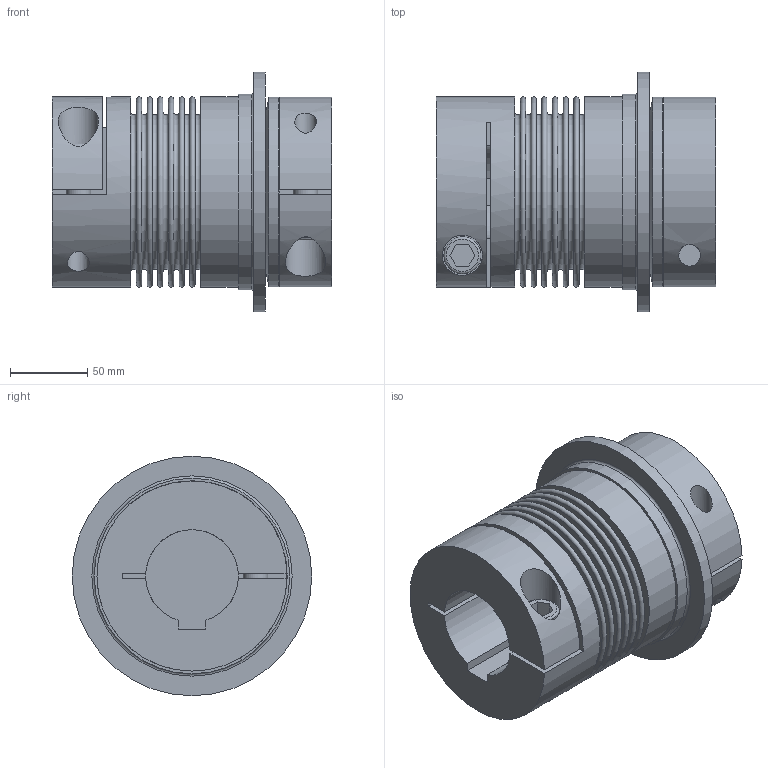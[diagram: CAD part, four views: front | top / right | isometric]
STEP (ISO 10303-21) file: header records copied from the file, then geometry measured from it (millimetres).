
FILE_DESCRIPTION(/* description */ ('STEP AP214'),/* implementation_level */ '2;1');
FILE_NAME(/* name */ 'C:\Diequa Files\DieQua Coupling\TB2\STP\TB2.500.181.F.#.#.stp',/* time_stamp */ '2019-04-26T10:39:39-05:00',/* author */ ('DiequaCAD'),/* organization */ (''),/* preprocessor_version */ 'ST-DEVELOPER v18',/* originating_system */ 'Autodesk Inventor 2020',/* authorisation */ ' ');
FILE_SCHEMA (('AUTOMOTIVE_DESIGN { 1 0 10303 214 3 1 1 }'));
Length unit declared in the file: millimetre
Products named in the file (1): TB2.500.181.F.#.#
Bounding box: 181 x 155 x 155 mm (x, y, z)
Volume: 1752128.8 mm3; surface area: 216839.8 mm2
Topology: 1 solids, 1 shells, 98 faces, 232 edges, 164 vertices
Faces by surface type: plane 61, cylinder 20, torus 16, cone 1
Full cylindrical faces by diameter (mm): 14 x2, 16 x2, 17.5 x2, 24 x2, 26 x2, 98.7 x1, 122.5 x1, 123 x2, 126.5 x1, 155 x1
Entity records: 3129 total; most frequent: CARTESIAN_POINT 655, DIRECTION 547, ORIENTED_EDGE 464, EDGE_CURVE 232, AXIS2_PLACEMENT_3D 222, VERTEX_POINT 164, EDGE_LOOP 130, CIRCLE 123
